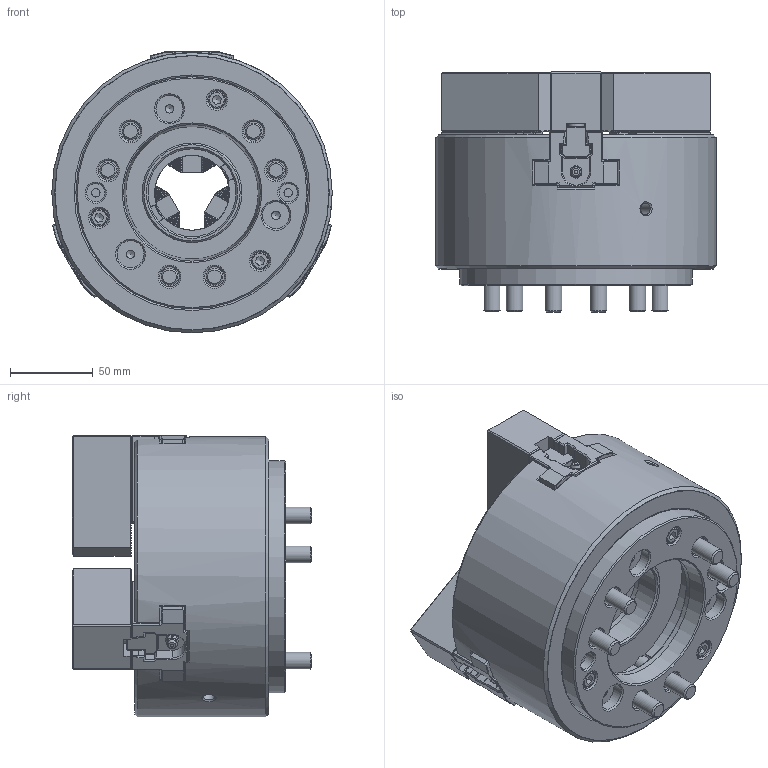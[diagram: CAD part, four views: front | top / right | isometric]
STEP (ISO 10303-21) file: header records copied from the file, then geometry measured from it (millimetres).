
FILE_DESCRIPTION(/* description */ (''),/* implementation_level */ '2;1');
FILE_NAME(/* name */ '\\Itserver\個人資料夾\柯玫如\OP-206-A5.stp',/* time_stamp */ '2024-07-15T14:06:09+08:00',/* author */ ('RDtmp1'),/* organization */ (''),/* preprocessor_version */ 'ST-DEVELOPER v16.13',/* originating_system */ 'Autodesk Inventor 2018',/* authorisation */ '');
FILE_SCHEMA (('AUTOMOTIVE_DESIGN { 1 0 10303 214 3 1 1 }'));
Products named in the file (1): OP-206-A5
Bounding box: 169 x 144.49 x 169.94 mm (x, y, z)
Volume: 1861832.2 mm3; surface area: 231586.5 mm2
Topology: 1 solids, 27 shells, 5071 faces, 16017 edges, 10324 vertices
Faces by surface type: plane 3205, cylinder 1200, bspline 401, cone 177, torus 73, sphere 15
Full cylindrical faces by diameter (mm): 3.8 x3, 5.1 x5, 5.2 x3, 6 x6, 6.6 x3, 6.8 x2, 8.6 x12, 10 x24, 11 x11, 12 x12, 16 x12, 16.3 x3, 17 x12, 45 x1, 47.352 x1, 53 x1, 55.5 x1, 60 x1, 79.8 x1, 140 x2, 141 x1, 169 x1
Entity records: 178555 total; most frequent: CARTESIAN_POINT 38674, ORIENTED_EDGE 31124, DIRECTION 27074, EDGE_CURVE 15562, LINE 11210, VECTOR 11210, VERTEX_POINT 10172, AXIS2_PLACEMENT_3D 7932
